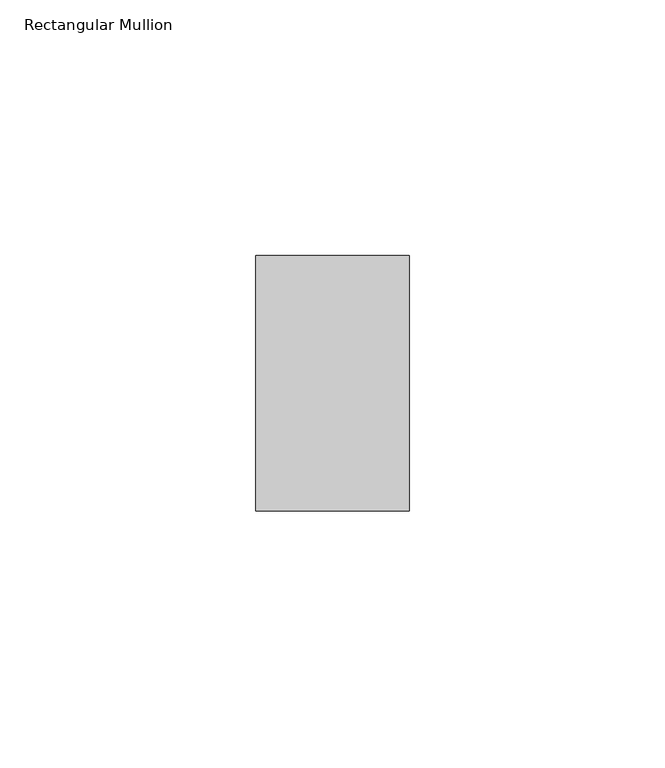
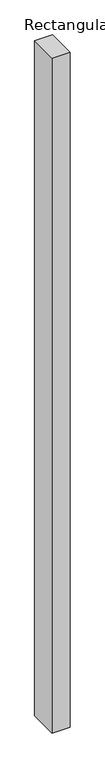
"""IFC4 building model written with IfcOpenShell, lengths in millimetres: member geometry, Rectangular Mullion : ARQ_TV_MULL_50x30mm."""

import ifcopenshell
import ifcopenshell.guid

model = None  # the IFC model being written
_history = None  # IfcOwnerHistory: only IFC2X3 demands one
_inside = {}  # id of a spatial element -> (the spatial element, [elements in it])
_under = {}  # id of a project, library or spatial element -> (it, [spatial elements below it])
_declared = {}  # id of a project -> (the project, [libraries it declares])
_typed = {}  # id of a type object -> (the type object, [elements of that type])
_made_of = {}  # id of a material, layer set ... -> (it, [elements and type objects made of it])


def new_model(schema):
    """Start an empty IFC model of exactly this schema.

    Asked for "IFC4X3", IfcOpenShell would pick the latest addendum, in which some entities
    have other attributes; the version numbers below select the first issue.
    IFC2X3 requires an IfcOwnerHistory on every rooted entity: one is made here for all.
    """
    global model, _history
    if schema == "IFC4X3":
        model = ifcopenshell.file(schema_version=(4, 3, 0, 0))
    else:
        model = ifcopenshell.file(schema=schema)
    _inside.clear()
    _under.clear()
    _declared.clear()
    _typed.clear()
    _made_of.clear()
    _history = None
    if model.schema == "IFC2X3":
        org = make("IfcOrganization", Name="unknown")
        user = make(
            "IfcPersonAndOrganization",
            ThePerson=make("IfcPerson", FamilyName="unknown"),
            TheOrganization=org,
        )
        app = make(
            "IfcApplication",
            ApplicationDeveloper=org,
            Version="unknown",
            ApplicationFullName="unknown",
            ApplicationIdentifier="unknown",
        )
        _history = make(
            "IfcOwnerHistory",
            OwningUser=user,
            OwningApplication=app,
            ChangeAction="ADDED",
            CreationDate=0,
        )
    return model


def make(cls, **values):
    """One entity of the class cls with the attributes given. An attribute that is None is left unset."""
    return model.create_entity(
        cls, **{name: value for name, value in values.items() if value is not None}
    )


def rooted(cls, **values):
    """An entity with a GlobalId (a new one), such as an element, a storey or a relation."""
    return make(cls, GlobalId=ifcopenshell.guid.new(), OwnerHistory=_history, **values)


def si_unit(unit_type, name, prefix=None):
    """IfcSIUnit, for example si_unit("LENGTHUNIT", "METRE", prefix="MILLI")."""
    return make("IfcSIUnit", UnitType=unit_type, Prefix=prefix, Name=name)


def assignment(units):
    """IfcUnitAssignment: the units of a project."""
    return None if units is None else make("IfcUnitAssignment", Units=units)


def point(xyz):
    """IfcCartesianPoint."""
    return None if xyz is None else make("IfcCartesianPoint", Coordinates=xyz)


def direction(xyz):
    """IfcDirection."""
    return None if xyz is None else make("IfcDirection", DirectionRatios=xyz)


def frame(location, z_axis=None, x_axis=None):
    """IfcAxis2Placement3D, a coordinate frame: its origin and axes. An axis left out is left unset."""
    return make(
        "IfcAxis2Placement3D",
        Location=point(location),
        Axis=direction(z_axis),
        RefDirection=direction(x_axis),
    )


def origin():
    """The frame at (0, 0, 0) with its axes left unset."""
    return frame((0.0, 0.0, 0.0))


def place(relative_to, where):
    """IfcLocalPlacement: puts the frame where relative to a parent placement (None: the world)."""
    return make(
        "IfcLocalPlacement", PlacementRelTo=relative_to, RelativePlacement=where
    )


def context(
    kind, dimensions, precision=None, world=None, true_north=None, identifier=None
):
    """IfcGeometricRepresentationContext, for example the 3D "Model" context."""
    return make(
        "IfcGeometricRepresentationContext",
        ContextIdentifier=identifier,
        ContextType=kind,
        CoordinateSpaceDimension=dimensions,
        Precision=precision,
        WorldCoordinateSystem=world,
        TrueNorth=true_north,
    )


def project(units=None, contexts=None):
    """IfcProject with its units and contexts."""
    return rooted(
        "IfcProject",
        Name="project",
        RepresentationContexts=contexts,
        UnitsInContext=assignment(units),
    )


def spatial(cls, under=None, at=None, **own):
    """A site, building, storey or space (cls), placed at a placement, below another one or the project."""
    s = rooted(cls, ObjectPlacement=at, **own)
    if under is not None:
        _under.setdefault(under.id(), (under, []))[1].append(s)
    return s


def polyline(points):
    """IfcPolyline through the points."""
    return make("IfcPolyline", Points=[point(p) for p in points])


def outline(outer, holes=None, kind="AREA"):
    """IfcArbitraryClosedProfileDef: a profile drawn as a closed curve; with holes, ...WithVoids."""
    if holes is None:
        return make("IfcArbitraryClosedProfileDef", ProfileType=kind, OuterCurve=outer)
    return make(
        "IfcArbitraryProfileDefWithVoids",
        ProfileType=kind,
        OuterCurve=outer,
        InnerCurves=holes,
    )


def extrude(swept, where, along, depth):
    """IfcExtrudedAreaSolid: the profile swept, set in the frame where, extruded along a direction by depth."""
    return make(
        "IfcExtrudedAreaSolid",
        SweptArea=swept,
        Position=where,
        ExtrudedDirection=direction(along),
        Depth=depth,
    )


def shape(context_of_items, identifier, shape_type, items):
    """IfcShapeRepresentation: the items that make up one representation, for example the "Body"."""
    return make(
        "IfcShapeRepresentation",
        ContextOfItems=context_of_items,
        RepresentationIdentifier=identifier,
        RepresentationType=shape_type,
        Items=items,
    )


def source(mapping_origin, context_of_items, identifier, shape_type, items):
    """IfcRepresentationMap: a shape defined once, which mapped items show again and again."""
    return make(
        "IfcRepresentationMap",
        MappingOrigin=mapping_origin,
        MappedRepresentation=shape(context_of_items, identifier, shape_type, items),
    )


def transform(
    local_origin,
    x_axis=None,
    y_axis=None,
    z_axis=None,
    scale=None,
    scale2=None,
    scale3=None,
    uniform=True,
):
    """IfcCartesianTransformationOperator3D, or its non-uniform kind. x_axis, y_axis, z_axis: its Axis1, 2, 3."""
    if uniform:
        return make(
            "IfcCartesianTransformationOperator3D",
            Axis1=direction(x_axis),
            Axis2=direction(y_axis),
            LocalOrigin=point(local_origin),
            Scale=scale,
            Axis3=direction(z_axis),
        )
    return make(
        "IfcCartesianTransformationOperator3DnonUniform",
        Axis1=direction(x_axis),
        Axis2=direction(y_axis),
        LocalOrigin=point(local_origin),
        Scale=scale,
        Axis3=direction(z_axis),
        Scale2=scale2,
        Scale3=scale3,
    )


def mapped(mapping_source, mapping_target):
    """IfcMappedItem: shows the shape of a source again, moved by a transform."""
    return make(
        "IfcMappedItem", MappingSource=mapping_source, MappingTarget=mapping_target
    )


def made_of(thing, what):
    """Note that an element or type object is made of a material, layer set ...; save() writes the relation."""
    if what is not None:
        _made_of.setdefault(what.id(), (what, []))[1].append(thing)
    return thing


def element(
    cls,
    number,
    at=None,
    inside=None,
    cuts=None,
    type_object=None,
    material=None,
    context=None,
    identifier="Body",
    shape_type=None,
    held_by="IfcProductDefinitionShape",
    body=None,
    shapes=None,
    **own,
):
    """One element of the class cls, such as IfcWall. Its Tag is "e" and its number.

    at: its placement. inside: the storey or other place that contains it. cuts: it is an
    opening in that element (IfcRelVoidsElement). A single representation is given by context,
    identifier, shape_type and body (its items); several are given by shapes. held_by: the class
    of the entity that holds the representations. save() writes the other relations.
    """
    e = rooted(cls, Tag="e%d" % number, ObjectPlacement=at, **own)
    if body is not None:
        shapes = [shape(context, identifier, shape_type, body)]
    if shapes is not None:
        e.Representation = make(held_by, Representations=shapes)
    if inside is not None:
        _inside.setdefault(inside.id(), (inside, []))[1].append(e)
    if cuts is not None:
        rooted(
            "IfcRelVoidsElement", RelatingBuildingElement=cuts, RelatedOpeningElement=e
        )
    if type_object is not None:
        _typed.setdefault(type_object.id(), (type_object, []))[1].append(e)
    return made_of(e, material)


def aggregate(whole, parts):
    """IfcRelAggregates: a whole, such as a stair, and the parts it consists of."""
    return rooted("IfcRelAggregates", RelatingObject=whole, RelatedObjects=parts)


def save(model, path):
    """Write the relations noted so far, then the file.

    IfcRelAggregates (storeys below a building ...), IfcRelContainedInSpatialStructure (elements
    in a storey), IfcRelDefinesByType, IfcRelAssociatesMaterial and IfcRelDeclares: one each for
    every whole, place, type object, material and project.
    """
    for whole, parts in _under.values():
        aggregate(whole, parts)
    for where, things in _inside.values():
        rooted(
            "IfcRelContainedInSpatialStructure",
            RelatedElements=things,
            RelatingStructure=where,
        )
    for kind, things in _typed.values():
        rooted("IfcRelDefinesByType", RelatedObjects=things, RelatingType=kind)
    for what, things in _made_of.values():
        rooted("IfcRelAssociatesMaterial", RelatedObjects=things, RelatingMaterial=what)
    for by, libraries in _declared.values():
        rooted("IfcRelDeclares", RelatingContext=by, RelatedDefinitions=libraries)
    model.write(path)


def rectangular_mullion_da198025(model_context):
    return source(origin(), model_context, "Body", "SweptSolid", [
        extrude(outline(polyline([(15.0, 25.0), (15.0, -25.0), (-15.0, -25.0), (-15.0, 25.0), (15.0, 25.0)])), frame((0.0, 0.0, -1191.4200351), z_axis=(0.0, 0.0, 1.0), x_axis=(1.0, 0.0, 0.0)), (0.0, 0.0, 1.0), 1191.4200351),
    ])


if __name__ == "__main__":
    model = new_model("IFC4")
    model_context = context("Model", 3, world=origin())
    ifc_project = project(units=[si_unit("LENGTHUNIT", "METRE", prefix="MILLI")], contexts=[model_context])
    site = spatial("IfcSite", under=ifc_project)
    building = spatial("IfcBuilding", under=site)
    placement = place(None, origin())
    rectangular_mullion_shape = rectangular_mullion_da198025(model_context)
    element("IfcMember", 1, ObjectType="Rectangular Mullion : ARQ_TV_MULL_50x30mm", at=placement, inside=building, context=model_context, shape_type="MappedRepresentation", body=[
        mapped(rectangular_mullion_shape, transform((0.0, 0.0, 0.0), x_axis=(1.0, 0.0, 0.0), y_axis=(0.0, 1.0, 0.0), z_axis=(0.0, 0.0, 1.0))),
    ])
    save(model, "model.ifc")
